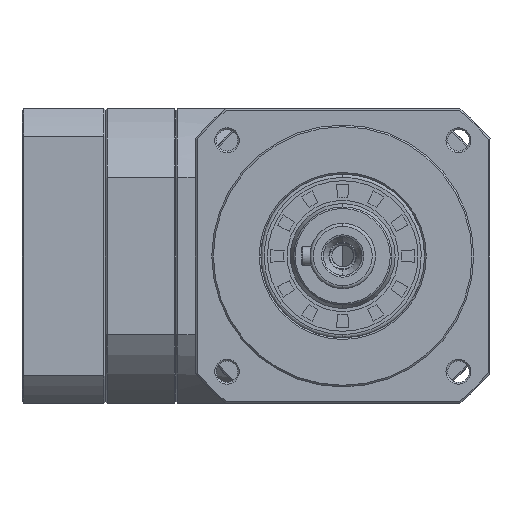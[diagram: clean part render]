
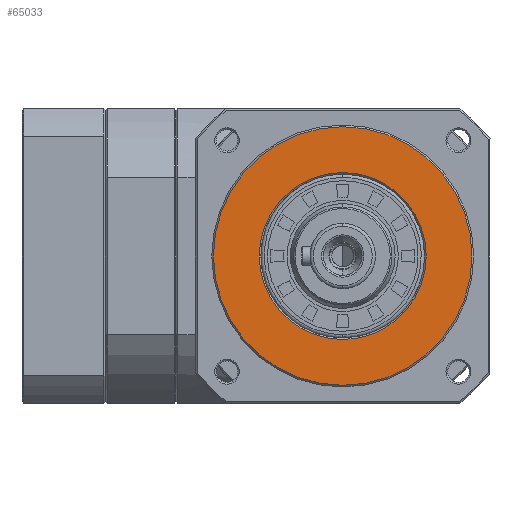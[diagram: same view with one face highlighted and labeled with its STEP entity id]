
A CAD part, left-side view. The second image highlights one B-rep face of the part: STEP entity #65033.
In plain terms, the highlighted planar face has unit normal (-1, 0, 0).
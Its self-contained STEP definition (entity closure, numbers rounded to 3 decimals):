
#2046 = AXIS2_PLACEMENT_3D ( 'NONE', #47000, #53454, #10532 ) ;
#4060 = CIRCLE ( 'NONE', #82649, 25.5 ) ;
#7598 = VERTEX_POINT ( 'NONE', #86031 ) ;
#10532 = DIRECTION ( 'NONE',  ( 0., 0., 1. ) ) ;
#16569 = EDGE_CURVE ( 'NONE', #21454, #81933, #4060, .T. ) ;
#17479 = FACE_BOUND ( 'NONE', #30362, .T. ) ;
#18949 = EDGE_LOOP ( 'NONE', ( #69881, #50798 ) ) ;
#21454 = VERTEX_POINT ( 'NONE', #43109 ) ;
#21872 = ORIENTED_EDGE ( 'NONE', *, *, #16569, .F. ) ;
#28920 = DIRECTION ( 'NONE',  ( 0., 0., 1. ) ) ;
#29506 = DIRECTION ( 'NONE',  ( 0., 0., -1. ) ) ;
#30362 = EDGE_LOOP ( 'NONE', ( #78103, #21872 ) ) ;
#35351 = CARTESIAN_POINT ( 'NONE',  ( 0., 0., 0. ) ) ;
#39376 = AXIS2_PLACEMENT_3D ( 'NONE', #52975, #76203, #77146 ) ;
#40330 = VERTEX_POINT ( 'NONE', #82393 ) ;
#41283 = CIRCLE ( 'NONE', #83101, 39.5 ) ;
#41988 = EDGE_CURVE ( 'NONE', #7598, #40330, #76925, .T. ) ;
#43109 = CARTESIAN_POINT ( 'NONE',  ( 0., 0., -25.5 ) ) ;
#43536 = EDGE_CURVE ( 'NONE', #40330, #7598, #41283, .T. ) ;
#47000 = CARTESIAN_POINT ( 'NONE',  ( 0., 0., 0. ) ) ;
#48434 = DIRECTION ( 'NONE',  ( -1., 0., 0. ) ) ;
#49241 = CIRCLE ( 'NONE', #2046, 25.5 ) ;
#50122 = AXIS2_PLACEMENT_3D ( 'NONE', #66360, #81326, #29506 ) ;
#50798 = ORIENTED_EDGE ( 'NONE', *, *, #41988, .T. ) ;
#52975 = CARTESIAN_POINT ( 'NONE',  ( 0., -39.974, 39.974 ) ) ;
#53363 = CARTESIAN_POINT ( 'NONE',  ( 0., 0., 25.5 ) ) ;
#53454 = DIRECTION ( 'NONE',  ( -1., 0., 0. ) ) ;
#59214 = PLANE ( 'NONE',  #39376 ) ;
#62822 = DIRECTION ( 'NONE',  ( 0., 0., -1. ) ) ;
#65033 = ADVANCED_FACE ( 'NONE', ( #17479, #80406 ), #59214, .F. ) ;
#66360 = CARTESIAN_POINT ( 'NONE',  ( 0., 0., 0. ) ) ;
#69881 = ORIENTED_EDGE ( 'NONE', *, *, #43536, .T. ) ;
#70209 = CARTESIAN_POINT ( 'NONE',  ( 0., 0., 0. ) ) ;
#76203 = DIRECTION ( 'NONE',  ( 1., 0., 0. ) ) ;
#76925 = CIRCLE ( 'NONE', #50122, 39.5 ) ;
#77146 = DIRECTION ( 'NONE',  ( 0., 0., -1. ) ) ;
#78103 = ORIENTED_EDGE ( 'NONE', *, *, #86100, .F. ) ;
#80406 = FACE_OUTER_BOUND ( 'NONE', #18949, .T. ) ;
#81326 = DIRECTION ( 'NONE',  ( -1., 0., 0. ) ) ;
#81933 = VERTEX_POINT ( 'NONE', #53363 ) ;
#82393 = CARTESIAN_POINT ( 'NONE',  ( 0., 0., -39.5 ) ) ;
#82649 = AXIS2_PLACEMENT_3D ( 'NONE', #35351, #86491, #28920 ) ;
#83101 = AXIS2_PLACEMENT_3D ( 'NONE', #70209, #48434, #62822 ) ;
#86031 = CARTESIAN_POINT ( 'NONE',  ( 0., 0., 39.5 ) ) ;
#86100 = EDGE_CURVE ( 'NONE', #81933, #21454, #49241, .T. ) ;
#86491 = DIRECTION ( 'NONE',  ( -1., 0., 0. ) ) ;
